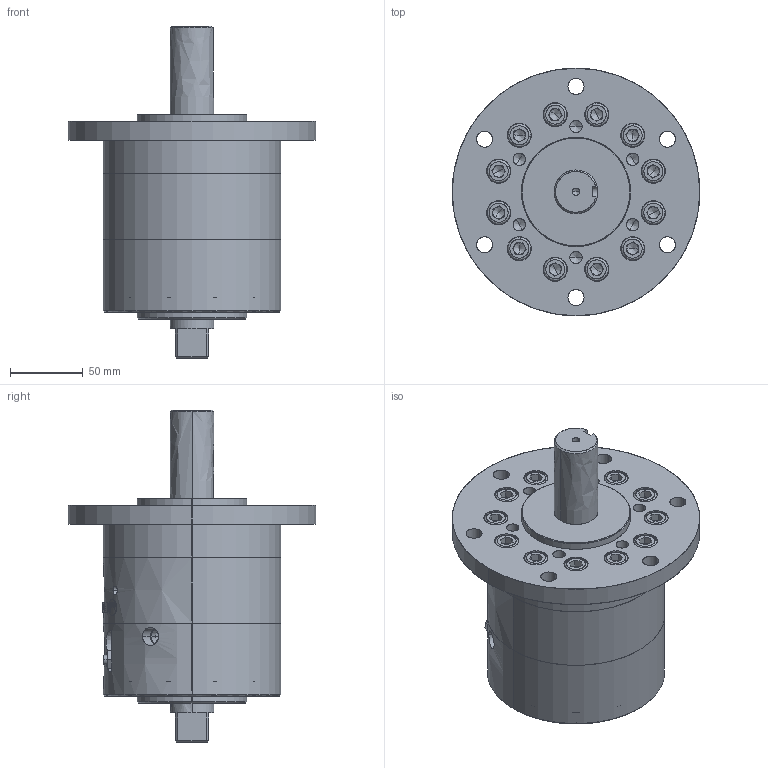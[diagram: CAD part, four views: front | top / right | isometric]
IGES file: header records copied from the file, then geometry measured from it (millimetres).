
Start section: SolidWorks IGES file using analytic representation for surfaces
Global section: file name: C:\Users\Chieh_Lu\Dropbox\¤u§@«Ç\HRN\HRN100S-C.IGS; native system: SolidWorks 2014; preprocessor: SolidWorks 2014; author: Chieh_Lu; date: 160115.010022; units: millimetre
Bounding box: 170 x 170 x 228 mm (x, y, z)
Surface area: 265643.7 mm2 (no closed solid volume)
Topology: 0 solids, 0 shells, 1068 faces, 13773 edges, 13693 vertices
Faces by surface type: bspline 613, revolution 455
